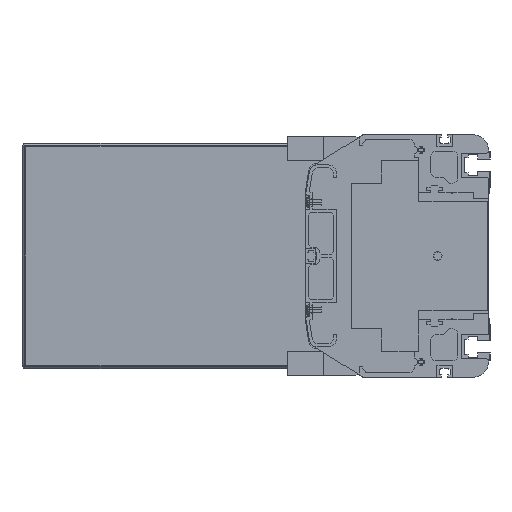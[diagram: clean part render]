
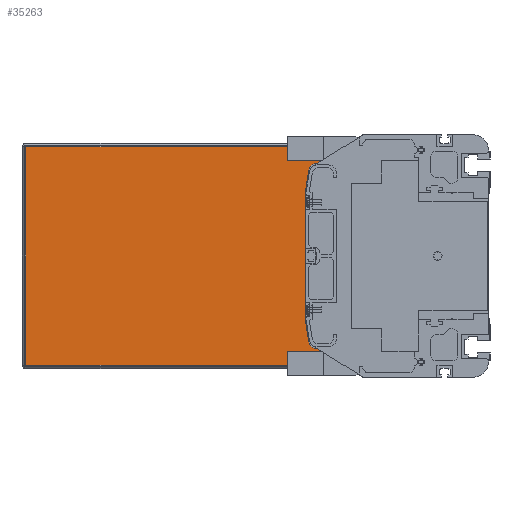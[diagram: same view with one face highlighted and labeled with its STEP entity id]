
A CAD part, left-side view. The second image highlights one B-rep face of the part: STEP entity #35263.
In plain terms, the highlighted planar face has unit normal (-1, 0, 0).
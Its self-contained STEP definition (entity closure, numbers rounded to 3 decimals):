
#2778=DIRECTION('',(0.,0.,-1.));
#2779=VECTOR('',#2778,11.);
#2780=CARTESIAN_POINT('',(3386.5,86.,-61.));
#2781=LINE('',#2780,#2779);
#2787=DIRECTION('',(0.,0.,-1.));
#2788=VECTOR('',#2787,11.);
#2789=CARTESIAN_POINT('',(3386.5,86.,72.));
#2790=LINE('',#2789,#2788);
#2800=DIRECTION('',(0.,-1.,0.));
#2801=VECTOR('',#2800,220.5);
#2802=CARTESIAN_POINT('',(3386.5,306.5,-72.));
#2803=LINE('',#2802,#2801);
#7762=DIRECTION('',(0.,1.,0.));
#7763=VECTOR('',#7762,28.728);
#7764=CARTESIAN_POINT('',(3386.5,86.,-61.));
#7765=LINE('',#7764,#7763);
#14012=DIRECTION('',(0.,-1.,0.));
#14013=VECTOR('',#14012,28.728);
#14014=CARTESIAN_POINT('',(3386.5,114.728,61.));
#14015=LINE('',#14014,#14013);
#14028=DIRECTION('',(0.,0.,1.));
#14029=VECTOR('',#14028,84.);
#14030=CARTESIAN_POINT('',(3386.5,122.,-42.));
#14031=LINE('',#14030,#14029);
#14040=CARTESIAN_POINT('',(3386.5,114.728,56.));
#14041=DIRECTION('',(-1.,0.,0.));
#14042=DIRECTION('',(0.,0.,1.));
#14043=AXIS2_PLACEMENT_3D('',#14040,#14041,#14042);
#14045=DIRECTION('',(0.,0.156,-0.988));
#14046=VECTOR('',#14045,14.963);
#14047=CARTESIAN_POINT('',(3386.5,119.666,56.78));
#14048=LINE('',#14047,#14046);
#14049=DIRECTION('',(0.,-0.156,-0.988));
#14050=VECTOR('',#14049,14.963);
#14051=CARTESIAN_POINT('',(3386.5,122.,-42.));
#14052=LINE('',#14051,#14050);
#14053=CARTESIAN_POINT('',(3386.5,114.728,-56.));
#14054=DIRECTION('',(-1.,0.,0.));
#14055=DIRECTION('',(0.,0.988,-0.156));
#14056=AXIS2_PLACEMENT_3D('',#14053,#14054,#14055);
#14062=DIRECTION('',(0.,0.,-1.));
#14063=VECTOR('',#14062,144.);
#14064=CARTESIAN_POINT('',(3386.5,306.5,72.));
#14065=LINE('',#14064,#14063);
#14231=DIRECTION('',(0.,1.,0.));
#14232=VECTOR('',#14231,220.5);
#14233=CARTESIAN_POINT('',(3386.5,86.,72.));
#14234=LINE('',#14233,#14232);
#17248=CARTESIAN_POINT('',(3386.5,306.5,-72.));
#17249=CARTESIAN_POINT('',(3386.5,86.,-72.));
#17250=VERTEX_POINT('',#17248);
#17251=VERTEX_POINT('',#17249);
#17252=CARTESIAN_POINT('',(3386.5,86.,-61.));
#17253=VERTEX_POINT('',#17252);
#17254=CARTESIAN_POINT('',(3386.5,114.728,-61.));
#17255=VERTEX_POINT('',#17254);
#17256=CARTESIAN_POINT('',(3386.5,119.666,-56.78));
#17257=VERTEX_POINT('',#17256);
#17258=CARTESIAN_POINT('',(3386.5,122.,-42.));
#17259=VERTEX_POINT('',#17258);
#17260=CARTESIAN_POINT('',(3386.5,122.,42.));
#17261=VERTEX_POINT('',#17260);
#17262=CARTESIAN_POINT('',(3386.5,119.666,56.78));
#17263=VERTEX_POINT('',#17262);
#17264=CARTESIAN_POINT('',(3386.5,114.728,61.));
#17265=VERTEX_POINT('',#17264);
#17266=CARTESIAN_POINT('',(3386.5,86.,61.));
#17267=VERTEX_POINT('',#17266);
#17268=CARTESIAN_POINT('',(3386.5,86.,72.));
#17269=VERTEX_POINT('',#17268);
#17270=CARTESIAN_POINT('',(3386.5,306.5,72.));
#17271=VERTEX_POINT('',#17270);
#35240=CARTESIAN_POINT('',(3386.5,196.25,0.));
#35241=DIRECTION('',(1.,0.,0.));
#35242=DIRECTION('',(0.,0.,-1.));
#35243=AXIS2_PLACEMENT_3D('',#35240,#35241,#35242);
#35244=PLANE('',#35243);
#35245=ORIENTED_EDGE('',*,*,#22452,.F.);
#35247=ORIENTED_EDGE('',*,*,#35246,.F.);
#35249=ORIENTED_EDGE('',*,*,#35248,.F.);
#35250=ORIENTED_EDGE('',*,*,#22434,.T.);
#35251=ORIENTED_EDGE('',*,*,#35192,.F.);
#35252=ORIENTED_EDGE('',*,*,#35205,.T.);
#35253=ORIENTED_EDGE('',*,*,#35221,.T.);
#35254=ORIENTED_EDGE('',*,*,#35231,.F.);
#35256=ORIENTED_EDGE('',*,*,#35255,.T.);
#35258=ORIENTED_EDGE('',*,*,#35257,.T.);
#35259=ORIENTED_EDGE('',*,*,#26769,.F.);
#35260=ORIENTED_EDGE('',*,*,#22402,.T.);
#35261=EDGE_LOOP('',(#35245,#35247,#35249,#35250,#35251,#35252,#35253,#35254,
#35256,#35258,#35259,#35260));
#35262=FACE_OUTER_BOUND('',#35261,.F.);
#35263=ADVANCED_FACE('',(#35262),#35244,.F.);
#14044=CIRCLE('',#14043,5.);
#14057=CIRCLE('',#14056,5.);
#22402=EDGE_CURVE('',#17253,#17251,#2781,.T.);
#22434=EDGE_CURVE('',#17269,#17267,#2790,.T.);
#22452=EDGE_CURVE('',#17250,#17251,#2803,.T.);
#26769=EDGE_CURVE('',#17253,#17255,#7765,.T.);
#35192=EDGE_CURVE('',#17265,#17267,#14015,.T.);
#35205=EDGE_CURVE('',#17265,#17263,#14044,.T.);
#35221=EDGE_CURVE('',#17263,#17261,#14048,.T.);
#35231=EDGE_CURVE('',#17259,#17261,#14031,.T.);
#35246=EDGE_CURVE('',#17271,#17250,#14065,.T.);
#35248=EDGE_CURVE('',#17269,#17271,#14234,.T.);
#35255=EDGE_CURVE('',#17259,#17257,#14052,.T.);
#35257=EDGE_CURVE('',#17257,#17255,#14057,.T.);
